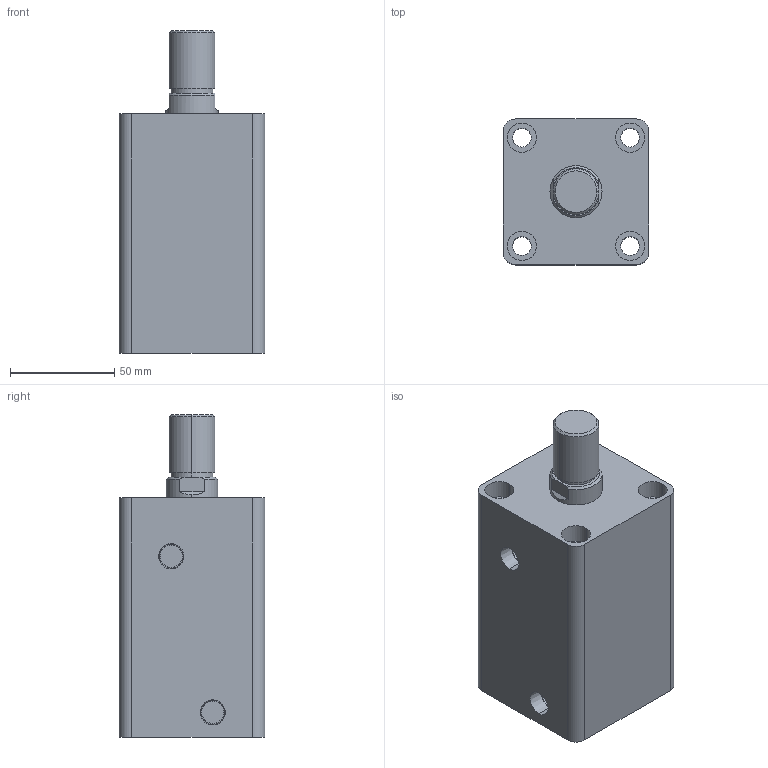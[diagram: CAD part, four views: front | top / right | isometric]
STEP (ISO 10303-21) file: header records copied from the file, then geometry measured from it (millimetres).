
FILE_DESCRIPTION (( 'STEP AP203' ), '1' );
FILE_NAME ('HTB-SD40-60W.STEP', '2019-10-07T06:54:14', ( '微软用户' ), ( '微软中国' ), 'SwSTEP 2.0', 'SolidWorks 2012', '' );
FILE_SCHEMA (( 'CONFIG_CONTROL_DESIGN' ));
Length unit declared in the file: millimetre
Products named in the file (3): HTB-SD40-60W活塞杆; HTB-SD40-60W; HTB-SD40-60掛极
Assembly tree (2 placements, depth 2):
  HTB-SD40-60W
    HTB-SD40-60掛极
    HTB-SD40-60W活塞杆
Bounding box: 70 x 70 x 155 mm (x, y, z)
Volume: 492215.7 mm3; surface area: 82947.9 mm2
Topology: 2 solids, 2 shells, 85 faces, 186 edges, 122 vertices
Faces by surface type: cylinder 44, plane 29, cone 8, torus 4
Entity records: 2709 total; most frequent: DIRECTION 466, CARTESIAN_POINT 426, ORIENTED_EDGE 372, AXIS2_PLACEMENT_3D 198, EDGE_CURVE 186, VERTEX_POINT 122, EDGE_LOOP 110, CIRCLE 108
